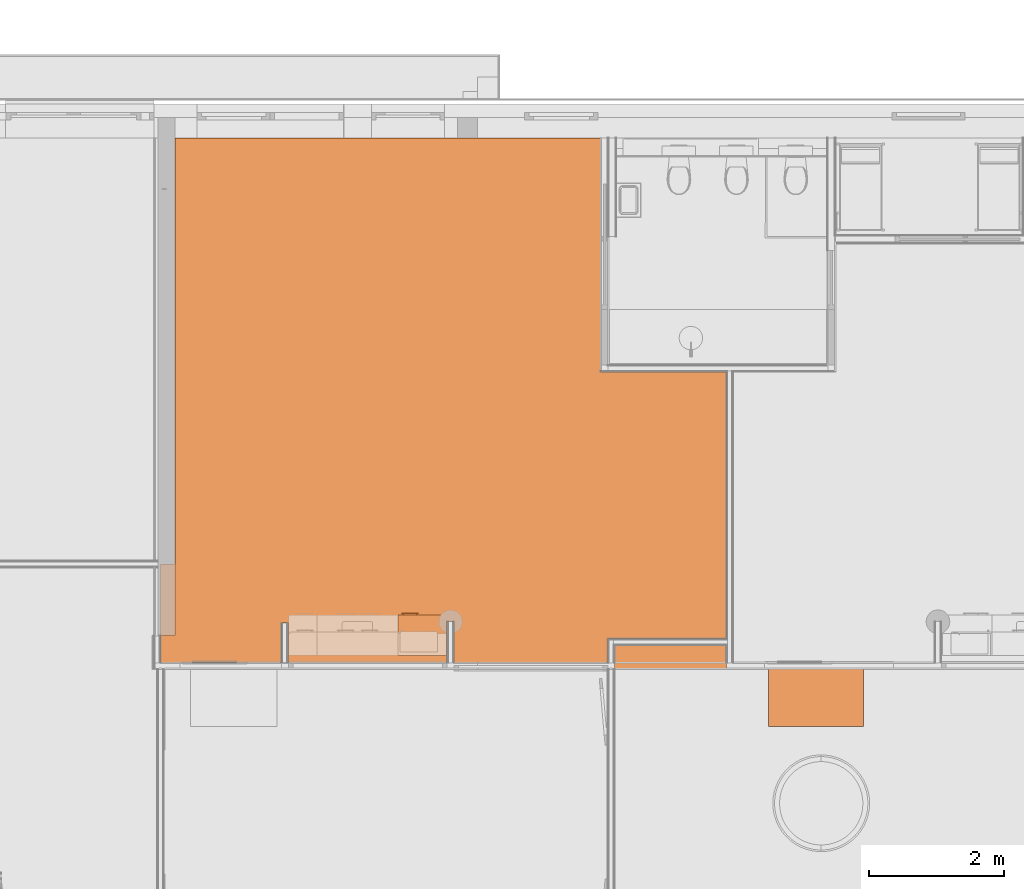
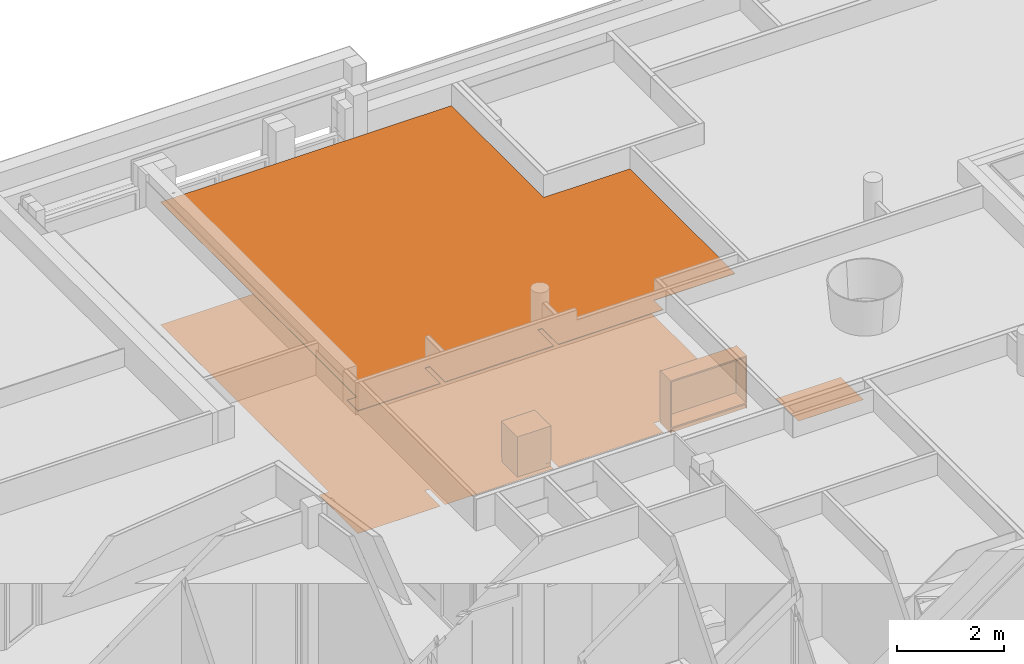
# One storey, part 157 of 167: 5 proxies.
"""IFC2X3 building model written with IfcOpenShell, lengths in millimetres."""

from ifc_helpers import new_model, entity, si_unit, converted_unit, derived_unit, money_unit, direction, frame, origin_with_axes, place, context, subcontext, project, spatial, open_shell, faceted_brep, surface_model, material, type_object, element, save


model = new_model("IFC2X3")

# Units and contexts
model_context = context("Model", 3, precision=0.01, world=origin_with_axes(), true_north=direction((0.0, 1.0)))
plan_context = context("Plan", 3, precision=0.01, world=origin_with_axes(), true_north=direction((0.0, 1.0)))
body_context = subcontext(model_context, "Body", "Model", "MODEL_VIEW")
ifc_project = project(units=[si_unit("LENGTHUNIT", "METRE", prefix="MILLI"), si_unit("AREAUNIT", "SQUARE_METRE"), si_unit("VOLUMEUNIT", "CUBIC_METRE"), converted_unit("PLANEANGLEUNIT", "DEGREE", entity("IfcPlaneAngleMeasure", 0.0174532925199), si_unit("PLANEANGLEUNIT", "RADIAN"), dimensions=[0, 0, 0, 0, 0, 0, 0]), si_unit("SOLIDANGLEUNIT", "STERADIAN"), money_unit("EUR"), converted_unit("TIMEUNIT", "Year", entity("IfcTimeMeasure", 31556926.0), si_unit("TIMEUNIT", "SECOND"), dimensions=[0, 0, 1, 0, 0, 0, 0]), si_unit("MASSUNIT", "GRAM", prefix="KILO"), si_unit("THERMODYNAMICTEMPERATUREUNIT", "DEGREE_CELSIUS"), si_unit("LUMINOUSINTENSITYUNIT", "LUMEN"), si_unit("ENERGYUNIT", "JOULE", prefix="MEGA"), derived_unit("THERMALCONDUCTANCEUNIT", [(si_unit("POWERUNIT", "WATT"), 1), (si_unit("LENGTHUNIT", "METRE"), -1), (si_unit("THERMODYNAMICTEMPERATUREUNIT", "KELVIN"), -1)]), derived_unit("SPECIFICHEATCAPACITYUNIT", [(si_unit("ENERGYUNIT", "JOULE"), 1), (si_unit("MASSUNIT", "GRAM", prefix="KILO"), -1), (si_unit("THERMODYNAMICTEMPERATUREUNIT", "KELVIN"), -1)]), derived_unit("MASSDENSITYUNIT", [(si_unit("MASSUNIT", "GRAM", prefix="KILO"), 1), (si_unit("VOLUMEUNIT", "CUBIC_METRE"), -1)])], contexts=[model_context, plan_context])

# Site, building, storey
site_placement = place(None, origin_with_axes())
site = spatial("IfcSite", under=ifc_project, at=site_placement, Name="Site", CompositionType="ELEMENT")
building_placement = place(site_placement, origin_with_axes())
building = spatial("IfcBuilding", under=site, at=building_placement, Name="Naam gebouw", CompositionType="ELEMENT")
storey_placement = place(building_placement, origin_with_axes())
storey = spatial("IfcBuildingStorey", under=building, at=storey_placement, Name="Begane grond", CompositionType="ELEMENT", Elevation=0.0)

# Proxies
building_element_proxy_type_1 = type_object("IfcBuildingElementProxyType", Name="Kast basis 1D 24", PredefinedType="NOTDEFINED")
proxy_1_placement = place(storey_placement, frame((28748.3441389, 42449.9999886, 0.0), z_axis=(0.0, 0.0, 1.0), x_axis=(-1.0, 0.0, 0.0)))
element("IfcBuildingElementProxy", 1, at=proxy_1_placement, inside=storey, type_object=building_element_proxy_type_1, Name="__Object-x", context=body_context, shape_type="SurfaceModel", body=[
    faceted_brep([(0.0, 20.0, 0.0), (725.0, 20.0, 0.0), (725.0, 20.0, 90.0), (0.0, 20.0, 90.0), (0.0, 600.0, 0.0), (725.0, 600.0, 0.0), (725.0, 600.0, 90.0), (0.0, 600.0, 90.0)], [[[0, 1, 2, 3]], [[0, 4, 5, 1]], [[1, 5, 6, 2]], [[3, 2, 6, 7]], [[4, 0, 3, 7]], [[5, 4, 7, 6]]]),
    faceted_brep([(125.0, 20.0, 880.0), (145.0, 20.0, 880.0), (145.0, 20.0, 900.0), (125.0, 20.0, 900.0), (125.0, 600.0, 880.0), (145.0, 600.0, 880.0), (705.0, 600.0, 880.0), (725.0, 600.0, 880.0), (725.0, 20.0, 880.0), (705.0, 20.0, 880.0), (705.0, 20.0, 900.0), (725.0, 20.0, 900.0), (725.0, 600.0, 900.0), (705.0, 600.0, 900.0), (145.0, 600.0, 900.0), (125.0, 600.0, 900.0)], [[[0, 1, 2, 3]], [[0, 4, 5, 6, 7, 8, 9, 1]], [[1, 9, 10, 2]], [[3, 2, 10, 11, 12, 13, 14, 15]], [[4, 0, 3, 15]], [[5, 4, 15, 14]], [[6, 5, 14, 13]], [[7, 6, 13, 12]], [[8, 7, 12, 11]], [[9, 8, 11, 10]]]),
    faceted_brep([(125.0, 20.0, 90.0), (145.0, 20.0, 90.0), (145.0, 20.0, 110.0), (125.0, 20.0, 110.0), (125.0, 600.0, 90.0), (145.0, 600.0, 90.0), (705.0, 600.0, 90.0), (725.0, 600.0, 90.0), (725.0, 20.0, 90.0), (705.0, 20.0, 90.0), (705.0, 20.0, 110.0), (725.0, 20.0, 110.0), (725.0, 600.0, 110.0), (705.0, 600.0, 110.0), (145.0, 600.0, 110.0), (125.0, 600.0, 110.0)], [[[0, 1, 2, 3]], [[0, 4, 5, 6, 7, 8, 9, 1]], [[1, 9, 10, 2]], [[3, 2, 10, 11, 12, 13, 14, 15]], [[4, 0, 3, 15]], [[5, 4, 15, 14]], [[6, 5, 14, 13]], [[7, 6, 13, 12]], [[8, 7, 12, 11]], [[9, 8, 11, 10]]]),
    faceted_brep([(125.0, 20.0, 110.0), (145.0, 20.0, 110.0), (145.0, 20.0, 880.0), (125.0, 20.0, 880.0), (125.0, 600.0, 110.0), (725.0, 600.0, 110.0), (725.0, 20.0, 110.0), (705.0, 20.0, 110.0), (705.0, 580.0, 110.0), (145.0, 580.0, 110.0), (145.0, 580.0, 880.0), (705.0, 580.0, 880.0), (705.0, 20.0, 880.0), (725.0, 20.0, 880.0), (725.0, 600.0, 880.0), (125.0, 600.0, 880.0)], [[[0, 1, 2, 3]], [[0, 4, 5, 6, 7, 8, 9, 1]], [[1, 9, 10, 2]], [[3, 2, 10, 11, 12, 13, 14, 15]], [[4, 0, 3, 15]], [[5, 4, 15, 14]], [[6, 5, 14, 13]], [[7, 6, 13, 12]], [[8, 7, 12, 11]], [[9, 8, 11, 10]]]),
    faceted_brep([(705.0, 20.0, 475.0), (705.0, 580.0, 475.0), (705.0, 580.0, 495.0), (705.0, 20.0, 495.0), (145.0, 20.0, 475.0), (145.0, 580.0, 475.0), (145.0, 580.0, 495.0), (145.0, 20.0, 495.0)], [[[0, 1, 2, 3]], [[0, 4, 5, 1]], [[1, 5, 6, 2]], [[3, 2, 6, 7]], [[4, 0, 3, 7]], [[5, 4, 7, 6]]]),
    faceted_brep([(0.0, 0.0, 900.0), (725.0, 0.0, 900.0), (725.0, 0.0, 920.0), (0.0, 0.0, 920.0), (0.0, 600.0, 900.0), (725.0, 600.0, 900.0), (725.0, 600.0, 920.0), (0.0, 600.0, 920.0)], [[[0, 1, 2, 3]], [[0, 4, 5, 1]], [[1, 5, 6, 2]], [[3, 2, 6, 7]], [[4, 0, 3, 7]], [[5, 4, 7, 6]]]),
    faceted_brep([(126.5, 20.0, 91.5), (723.5, 20.0, 91.5), (723.5, 0.0, 91.5), (126.5, 0.0, 91.5), (126.5, 20.0, 898.5), (723.5, 20.0, 898.5), (723.5, 0.0, 898.5), (126.5, 0.0, 898.5)], [[[0, 1, 2, 3]], [[0, 4, 5, 1]], [[1, 5, 6, 2]], [[3, 2, 6, 7]], [[4, 0, 3, 7]], [[5, 4, 7, 6]]]),
    faceted_brep([(423.5, -28.1480502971, 688.728361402), (423.5, -29.1213203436, 689.378679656), (423.5, -29.7716385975, 690.351949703), (423.5, -30.0, 691.5), (423.5, -29.7716385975, 692.648050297), (423.5, -29.1213203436, 693.621320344), (423.5, -28.1480502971, 694.271638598), (423.5, -27.0, 694.5), (423.5, -25.8519497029, 694.271638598), (423.5, -24.8786796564, 693.621320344), (423.5, -24.2283614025, 692.648050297), (423.5, -24.0, 691.5), (423.5, -24.2283614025, 690.351949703), (423.5, -24.8786796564, 689.378679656), (423.5, -25.8519497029, 688.728361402), (423.5, -27.0, 688.5), (673.5, -28.1480502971, 688.728361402), (673.5, -29.1213203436, 689.378679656), (673.5, -29.7716385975, 690.351949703), (673.5, -30.0, 691.5), (673.5, -29.7716385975, 692.648050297), (673.5, -29.1213203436, 693.621320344), (673.5, -28.1480502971, 694.271638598), (673.5, -27.0, 694.5), (673.5, -25.8519497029, 694.271638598), (673.5, -24.8786796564, 693.621320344), (673.5, -24.2283614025, 692.648050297), (673.5, -24.0, 691.5), (673.5, -24.2283614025, 690.351949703), (673.5, -24.8786796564, 689.378679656), (673.5, -25.8519497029, 688.728361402), (673.5, -27.0, 688.5)], [[[0, 1, 2, 3, 4, 5, 6, 7, 8, 9, 10, 11, 12, 13, 14, 15]], [[1, 0, 16, 17]], [[2, 1, 17, 18]], [[3, 2, 18, 19]], [[4, 3, 19, 20]], [[5, 4, 20, 21]], [[6, 5, 21, 22]], [[7, 6, 22, 23]], [[8, 7, 23, 24]], [[9, 8, 24, 25]], [[10, 9, 25, 26]], [[11, 10, 26, 27]], [[12, 11, 27, 28]], [[13, 12, 28, 29]], [[14, 13, 29, 30]], [[15, 14, 30, 31]], [[0, 15, 31, 16]], [[16, 31, 30, 29, 28, 27, 26, 25, 24, 23, 22, 21, 20, 19, 18, 17]]]),
    surface_model("IfcShellBasedSurfaceModel", [(446.190301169, -24.156637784, 690.543291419), (446.0, -24.0, 691.5), (446.0, 0.0, 691.5), (446.190301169, 0.0, 690.543291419), (446.190301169, -24.156637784, 692.456708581), (446.190301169, 0.0, 692.456708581), (446.732233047, 0.0, 693.267766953), (447.543291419, 0.0, 693.809698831), (448.5, 0.0, 694.0), (449.456708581, 0.0, 693.809698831), (450.267766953, 0.0, 693.267766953), (450.809698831, 0.0, 692.456708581), (451.0, 0.0, 691.5), (450.809698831, 0.0, 690.543291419), (450.267766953, 0.0, 689.732233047), (449.456708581, 0.0, 689.190301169), (448.5, 0.0, 689.0), (447.543291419, 0.0, 689.190301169), (446.732233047, 0.0, 689.732233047), (446.732233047, -24.5761600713, 689.732233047), (446.732233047, -24.5761600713, 693.267766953), (447.543291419, -25.0855049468, 693.809698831), (448.5, -25.3416876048, 694.0), (449.456708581, -25.0855049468, 693.809698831), (450.267766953, -24.5761600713, 693.267766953), (450.809698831, -24.156637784, 692.456708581), (451.0, -24.0, 691.5), (450.809698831, -24.156637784, 690.543291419), (450.267766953, -24.5761600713, 689.732233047), (449.456708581, -25.0855049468, 689.190301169), (448.5, -25.3416876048, 689.0), (447.543291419, -25.0855049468, 689.190301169)], [open_shell([[[0, 1, 2, 3]], [[1, 4, 5, 2]], [[3, 2, 5, 6, 7, 8, 9, 10, 11, 12, 13, 14, 15, 16, 17, 18]], [[19, 0, 3, 18]], [[4, 20, 6, 5]], [[20, 21, 7, 6]], [[21, 22, 8, 7]], [[22, 23, 9, 8]], [[23, 24, 10, 9]], [[24, 25, 11, 10]], [[25, 26, 12, 11]], [[26, 27, 13, 12]], [[27, 28, 14, 13]], [[28, 29, 15, 14]], [[29, 30, 16, 15]], [[30, 31, 17, 16]], [[31, 19, 18, 17]]])]),
    surface_model("IfcShellBasedSurfaceModel", [(646.190301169, -24.156637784, 690.543291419), (646.0, -24.0, 691.5), (646.0, 0.0, 691.5), (646.190301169, 0.0, 690.543291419), (646.190301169, -24.156637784, 692.456708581), (646.190301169, 0.0, 692.456708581), (646.732233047, 0.0, 693.267766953), (647.543291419, 0.0, 693.809698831), (648.5, 0.0, 694.0), (649.456708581, 0.0, 693.809698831), (650.267766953, 0.0, 693.267766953), (650.809698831, 0.0, 692.456708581), (651.0, 0.0, 691.5), (650.809698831, 0.0, 690.543291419), (650.267766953, 0.0, 689.732233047), (649.456708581, 0.0, 689.190301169), (648.5, 0.0, 689.0), (647.543291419, 0.0, 689.190301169), (646.732233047, 0.0, 689.732233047), (646.732233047, -24.5761600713, 689.732233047), (646.732233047, -24.5761600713, 693.267766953), (647.543291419, -25.0855049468, 693.809698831), (648.5, -25.3416876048, 694.0), (649.456708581, -25.0855049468, 693.809698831), (650.267766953, -24.5761600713, 693.267766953), (650.809698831, -24.156637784, 692.456708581), (651.0, -24.0, 691.5), (650.809698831, -24.156637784, 690.543291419), (650.267766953, -24.5761600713, 689.732233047), (649.456708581, -25.0855049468, 689.190301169), (648.5, -25.3416876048, 689.0), (647.543291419, -25.0855049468, 689.190301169)], [open_shell([[[0, 1, 2, 3]], [[1, 4, 5, 2]], [[3, 2, 5, 6, 7, 8, 9, 10, 11, 12, 13, 14, 15, 16, 17, 18]], [[19, 0, 3, 18]], [[4, 20, 6, 5]], [[20, 21, 7, 6]], [[21, 22, 8, 7]], [[22, 23, 9, 8]], [[23, 24, 10, 9]], [[24, 25, 11, 10]], [[25, 26, 12, 11]], [[26, 27, 13, 12]], [[27, 28, 14, 13]], [[28, 29, 15, 14]], [[29, 30, 16, 15]], [[30, 31, 17, 16]], [[31, 19, 18, 17]]])]),
    faceted_brep([(125.0, 598.5, 91.5), (125.0, 21.5, 91.5), (0.0, 21.5, 91.5), (0.0, 598.5, 91.5), (125.0, 598.5, 898.5), (125.0, 21.5, 898.5), (0.0, 21.5, 898.5), (0.0, 598.5, 898.5)], [[[0, 1, 2, 3]], [[0, 4, 5, 1]], [[1, 5, 6, 2]], [[3, 2, 6, 7]], [[4, 0, 3, 7]], [[5, 4, 7, 6]]]),
])
ifc_material_1 = material(Name="ALG - BINNENAFWERKING")
building_element_proxy_type_2 = type_object("IfcBuildingElementProxyType", Name="ALG - BINNENAFWERKING 10", PredefinedType="NOTDEFINED")
proxy_2_placement = place(storey_placement, frame((24724.9983525, 42149.0, 2800.0), z_axis=(0.0, 0.0, 1.0), x_axis=(1.0, 0.0, 0.0)))
element("IfcBuildingElementProxy", 2, at=proxy_2_placement, inside=storey, type_object=building_element_proxy_type_2, material=ifc_material_1, Name="23__Vloer-x", context=body_context, shape_type="Brep", body=[
    faceted_brep([(4125.00164751, -398.999988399, 10.0), (6396.79853237, -399.0, 10.0), (6396.79853237, -49.0000000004, 10.0), (6396.8791095, -49.0000000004, 10.0), (8150.28311396, -49.0000000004, 10.0), (8150.28311396, 3891.99994411, 10.0), (6287.50157994, 3891.99994411, 10.0), (6287.50157994, 7351.00006937, 10.0), (0.0016299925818, 7350.99993291, 10.0), (0.0, 0.0, 10.0), (-209.998343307, -3.62376795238e-10, 10.0), (-209.998343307, -399.0, 10.0), (1575.00164751, -399.0, 10.0), (1575.00164751, 181.0, 10.0), (1675.00164751, 181.0, 10.0), (1675.00164751, -399.0, 10.0), (4025.00164751, -398.999988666, 10.0), (4025.00164751, 201.0, 10.0), (4125.00164751, 201.0, 10.0), (4125.00164751, -398.999988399, 0.0), (6396.79853237, -399.0, 0.0), (6396.79853237, -49.0000000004, 0.0), (6396.8791095, -49.0000000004, 0.0), (8150.28311396, -49.0000000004, 0.0), (8150.28311396, 3891.99994411, 0.0), (6287.50157994, 3891.99994411, 0.0), (6287.50157994, 7351.00006937, 0.0), (0.0016299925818, 7350.99993291, 0.0), (0.0, 0.0, 0.0), (-209.998343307, -3.62376795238e-10, 0.0), (-209.998343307, -399.0, 0.0), (1575.00164751, -399.0, 0.0), (1575.00164751, 181.0, 0.0), (1675.00164751, 181.0, 0.0), (1675.00164751, -399.0, 0.0), (4025.00164751, -398.999988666, 0.0), (4025.00164751, 201.0, 0.0), (4125.00164751, 201.0, 0.0)], [[[0, 1, 2, 3, 4, 5, 6, 7, 8, 9, 10, 11, 12, 13, 14, 15, 16, 17, 18]], [[19, 20, 1, 0]], [[21, 2, 1, 20]], [[21, 22, 3, 2]], [[4, 3, 22, 23]], [[23, 24, 5, 4]], [[6, 5, 24, 25]], [[7, 6, 25, 26]], [[8, 7, 26, 27]], [[9, 8, 27, 28]], [[10, 9, 28, 29]], [[11, 10, 29, 30]], [[30, 31, 12, 11]], [[32, 13, 12, 31]], [[32, 33, 14, 13]], [[34, 15, 14, 33]], [[16, 15, 34, 35]], [[36, 17, 16, 35]], [[36, 37, 18, 17]], [[19, 0, 18, 37]], [[22, 21, 20, 19, 37, 36, 35, 34, 33, 32, 31, 30, 29, 28, 27, 26, 25, 24, 23]]]),
])
ifc_material_2 = material(Name="_TenW_43_A2 Forbo Impressa")
building_element_proxy_type_3 = type_object("IfcBuildingElementProxyType", Name="_TenW_43_A2 Forbo Impressa 2", PredefinedType="NOTDEFINED")
proxy_3_placement = place(storey_placement, frame((24514.9999941, 43199.9999353, 0.0), z_axis=(0.0, 0.0, 1.0), x_axis=(1.0, 0.0, 0.0)))
element("IfcBuildingElementProxy", 3, at=proxy_3_placement, inside=storey, type_object=building_element_proxy_type_3, material=ifc_material_2, Name="23__Vloer-x", context=body_context, shape_type="Brep", body=[
    faceted_brep([(0.0, -1449.99998277, 2.0), (1785.00000588, -1449.99993526, 2.0), (1785.00000588, -869.999935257, 2.0), (1885.00000588, -869.999935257, 2.0), (1885.00000588, -1449.99993526, 2.0), (4235.00000588, -1449.99994098, 2.0), (4235.00000588, -849.999935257, 2.0), (4335.00000588, -849.999935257, 2.0), (4335.00000588, -1449.99993999, 2.0), (6606.79689075, -1449.99991758, 2.0), (6606.79690376, -1099.99991907, 2.0), (8360.28332192, -1099.99998426, 2.0), (8360.28155239, 2840.99987759, 2.0), (6509.99977647, 2841.00000885, 2.0), (6497.49993596, 2841.00000885, 2.0), (6497.49993596, 2853.50000885, 2.0), (6497.49993596, 6300.00020931, 2.0), (210.000117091, 6299.99993462, 2.0), (210.000117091, 0.0, 2.0), (0.0, 0.0, 2.0), (0.0, -1449.99998277, 0.0), (1785.00000588, -1449.99993526, 0.0), (1785.00000588, -869.999935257, 0.0), (1885.00000588, -869.999935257, 0.0), (1885.00000588, -1449.99993526, 0.0), (4235.00000588, -1449.99994098, 0.0), (4235.00000588, -849.999935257, 0.0), (4335.00000588, -849.999935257, 0.0), (4335.00000588, -1449.99993999, 0.0), (6606.79689075, -1449.99991758, 0.0), (6606.79690376, -1099.99991907, 0.0), (8360.28332192, -1099.99998426, 0.0), (8360.28155239, 2840.99987759, 0.0), (6509.99977647, 2841.00000885, 0.0), (6497.49993596, 2841.00000885, 0.0), (6497.49993596, 2853.50000885, 0.0), (6497.49993596, 6300.00020931, 0.0), (210.000117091, 6299.99993462, 0.0), (210.000117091, 0.0, 0.0), (0.0, 0.0, 0.0)], [[[0, 1, 2, 3, 4, 5, 6, 7, 8, 9, 10, 11, 12, 13, 14, 15, 16, 17, 18, 19]], [[20, 21, 1, 0]], [[22, 2, 1, 21]], [[23, 3, 2, 22]], [[24, 4, 3, 23]], [[5, 4, 24, 25]], [[26, 6, 5, 25]], [[26, 27, 7, 6]], [[28, 8, 7, 27]], [[9, 8, 28, 29]], [[10, 9, 29, 30]], [[11, 10, 30, 31]], [[12, 11, 31, 32]], [[32, 33, 13, 12]], [[34, 14, 13, 33]], [[34, 35, 15, 14]], [[35, 36, 16, 15]], [[17, 16, 36, 37]], [[18, 17, 37, 38]], [[19, 18, 38, 39]], [[0, 19, 39, 20]], [[23, 22, 21, 20, 39, 38, 37, 36, 35, 34, 33, 32, 31, 30, 29, 28, 27, 26, 25, 24]]]),
])
proxy_4_placement = place(storey_placement, frame((33497.0001254, 40800.0, 0.0), z_axis=(0.0, 0.0, 1.0), x_axis=(1.0, 0.0, 0.0)))
element("IfcBuildingElementProxy", 4, at=proxy_4_placement, inside=storey, type_object=building_element_proxy_type_3, material=ifc_material_2, Name="23__Vloer-x", context=body_context, shape_type="Brep", body=[
    faceted_brep([(0.0, 0.0, 2.0), (0.0, 0.0, 0.0), (1401.79222912, 0.0, 0.0), (1401.79222912, 0.0, 2.0), (0.0, 849.999998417, 2.0), (0.0, 849.999998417, 0.0), (1401.79222912, 849.999998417, 0.0), (1401.79222912, 849.999998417, 2.0)], [[[0, 1, 2, 3]], [[4, 5, 1, 0]], [[2, 1, 5, 6]], [[3, 2, 6, 7]], [[4, 0, 3, 7]], [[7, 6, 5, 4]]]),
])
building_element_proxy_type_4 = type_object("IfcBuildingElementProxyType", Name="Boekenplank 01 24", PredefinedType="NOTDEFINED")
proxy_5_placement = place(storey_placement, frame((31221.7968849, 41650.0, 0.0), z_axis=(0.0, 0.0, 1.0), x_axis=(1.0, 0.0, 0.0)))
element("IfcBuildingElementProxy", 5, at=proxy_5_placement, inside=storey, type_object=building_element_proxy_type_4, Name="__Object-x", context=body_context, shape_type="Brep", body=[
    faceted_brep([(1633.48458158, 400.0, 120.0), (1633.48458158, 400.0, 1180.0), (1633.48458158, 380.0, 1180.0), (1633.48458158, 380.0, 120.0), (20.0, 400.0, 120.0), (20.0, 400.0, 1180.0), (20.0, 380.0, 1180.0), (20.0, 380.0, 120.0)], [[[0, 1, 2, 3]], [[4, 5, 1, 0]], [[1, 5, 6, 2]], [[3, 2, 6, 7]], [[0, 3, 7, 4]], [[7, 6, 5, 4]]]),
    faceted_brep([(1633.48458158, 380.0, 100.0), (1633.48458158, 380.0, 130.0), (1633.48458158, 0.0, 130.0), (1633.48458158, 0.0, 100.0), (20.0, 380.0, 100.0), (20.0, 380.0, 130.0), (20.0, 0.0, 130.0), (20.0, 0.0, 100.0)], [[[0, 1, 2, 3]], [[4, 5, 1, 0]], [[1, 5, 6, 2]], [[3, 2, 6, 7]], [[0, 3, 7, 4]], [[7, 6, 5, 4]]]),
    faceted_brep([(1633.48458158, 380.0, 1170.0), (1633.48458158, 380.0, 1200.0), (1633.48458158, 0.0, 1200.0), (1633.48458158, 0.0, 1170.0), (20.0, 380.0, 1170.0), (20.0, 380.0, 1200.0), (20.0, 0.0, 1200.0), (20.0, 0.0, 1170.0)], [[[0, 1, 2, 3]], [[4, 5, 1, 0]], [[1, 5, 6, 2]], [[3, 2, 6, 7]], [[0, 3, 7, 4]], [[7, 6, 5, 4]]]),
    faceted_brep([(20.0, 0.0, 100.0), (20.0, 0.0, 1200.0), (0.0, 0.0, 1200.0), (0.0, 0.0, 100.0), (20.0, 400.0, 100.0), (20.0, 400.0, 1200.0), (0.0, 400.0, 1200.0), (0.0, 400.0, 100.0)], [[[0, 1, 2, 3]], [[4, 5, 1, 0]], [[1, 5, 6, 2]], [[3, 2, 6, 7]], [[0, 3, 7, 4]], [[7, 6, 5, 4]]]),
    faceted_brep([(1633.48458158, 400.0, 100.0), (1633.48458158, 400.0, 1200.0), (1653.48458158, 400.0, 1200.0), (1653.48458158, 400.0, 100.0), (1633.48458158, 0.0, 100.0), (1633.48458158, 0.0, 1200.0), (1653.48458158, 0.0, 1200.0), (1653.48458158, 0.0, 100.0)], [[[0, 1, 2, 3]], [[4, 5, 1, 0]], [[1, 5, 6, 2]], [[3, 2, 6, 7]], [[0, 3, 7, 4]], [[7, 6, 5, 4]]]),
    faceted_brep([(1633.48458158, 400.0, 0.0), (1633.48458158, 400.0, 100.0), (1633.48458158, 380.0, 100.0), (1633.48458158, 380.0, 0.0), (20.0, 400.0, 0.0), (20.0, 400.0, 100.0), (20.0, 380.0, 100.0), (20.0, 380.0, 0.0)], [[[0, 1, 2, 3]], [[4, 5, 1, 0]], [[1, 5, 6, 2]], [[3, 2, 6, 7]], [[0, 3, 7, 4]], [[7, 6, 5, 4]]]),
    faceted_brep([(1653.48458158, 400.0, 0.0), (1653.48458158, 400.0, 100.0), (1653.48458158, 0.0, 100.0), (1653.48458158, 0.0, 0.0), (1633.48458158, 400.0, 0.0), (1633.48458158, 400.0, 100.0), (1633.48458158, 0.0, 100.0), (1633.48458158, 0.0, 0.0)], [[[0, 1, 2, 3]], [[4, 5, 1, 0]], [[1, 5, 6, 2]], [[3, 2, 6, 7]], [[0, 3, 7, 4]], [[7, 6, 5, 4]]]),
    faceted_brep([(20.0, 400.0, 0.0), (20.0, 400.0, 100.0), (20.0, 0.0, 100.0), (20.0, 0.0, 0.0), (0.0, 400.0, 0.0), (0.0, 400.0, 100.0), (0.0, 0.0, 100.0), (0.0, 0.0, 0.0)], [[[0, 1, 2, 3]], [[4, 5, 1, 0]], [[1, 5, 6, 2]], [[3, 2, 6, 7]], [[0, 3, 7, 4]], [[7, 6, 5, 4]]]),
    faceted_brep([(1633.48458158, 40.0, 0.0), (1633.48458158, 40.0, 100.0), (1633.48458158, 20.0, 100.0), (1633.48458158, 20.0, 0.0), (20.0, 40.0, 0.0), (20.0, 40.0, 100.0), (20.0, 20.0, 100.0), (20.0, 20.0, 0.0)], [[[0, 1, 2, 3]], [[4, 5, 1, 0]], [[1, 5, 6, 2]], [[3, 2, 6, 7]], [[0, 3, 7, 4]], [[7, 6, 5, 4]]]),
])

save(model, "model.ifc")
